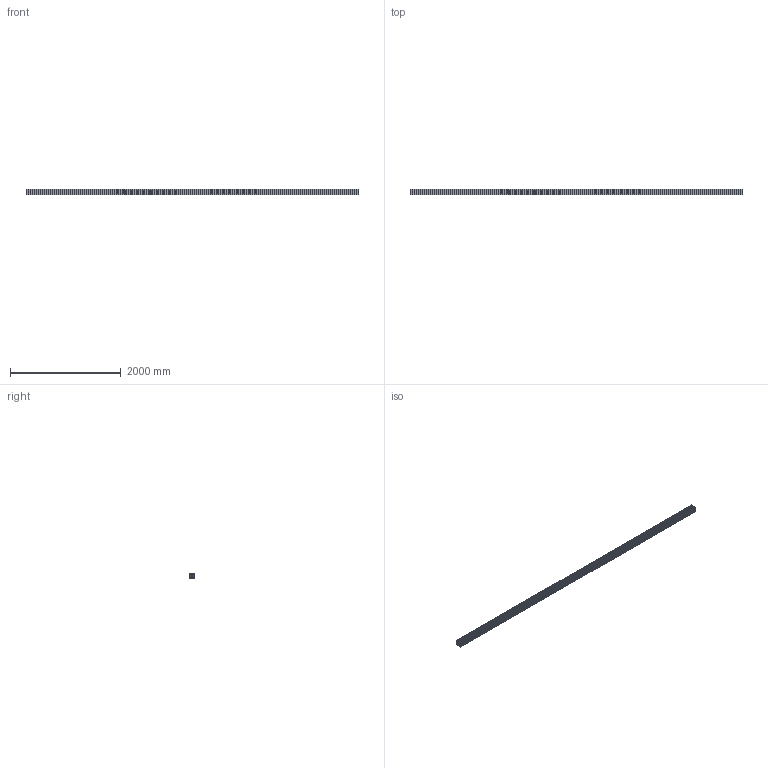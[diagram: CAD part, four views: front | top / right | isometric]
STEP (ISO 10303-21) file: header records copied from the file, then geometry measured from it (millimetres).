
FILE_DESCRIPTION (( 'STEP AP203' ), '1' );
FILE_NAME ('20104900_Profil 100x100L Nut 10_0.step', '2021-06-18T10:15:51', ( '' ), ( '' ), 'SwSTEP 2.0', 'SolidWorks 2021', '' );
FILE_SCHEMA (( 'CONFIG_CONTROL_DESIGN' ));
Length unit declared in the file: millimetre
Products named in the file (1): 20104900_Profil 100x100L Nut 10_0
Bounding box: 6000 x 100 x 100 mm (x, y, z)
Volume: 17911494.2 mm3; surface area: 10778802.8 mm2
Topology: 1 solids, 1 shells, 384 faces, 1146 edges, 764 vertices
Faces by surface type: plane 346, cylinder 38
Entity records: 12819 total; most frequent: CARTESIAN_POINT 2295, ORIENTED_EDGE 2292, DIRECTION 1992, EDGE_CURVE 1146, VECTOR 1070, LINE 1070, VERTEX_POINT 764, AXIS2_PLACEMENT_3D 461
